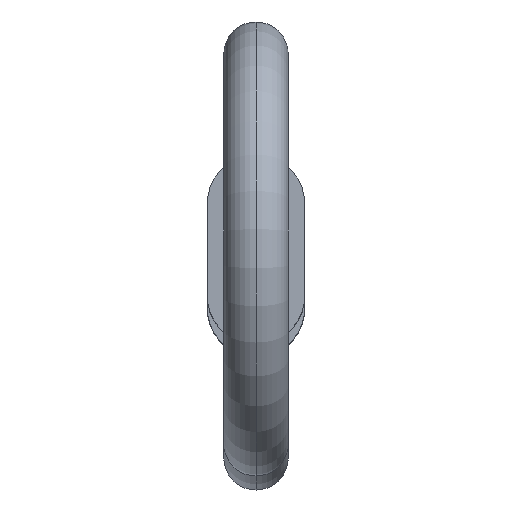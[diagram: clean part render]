
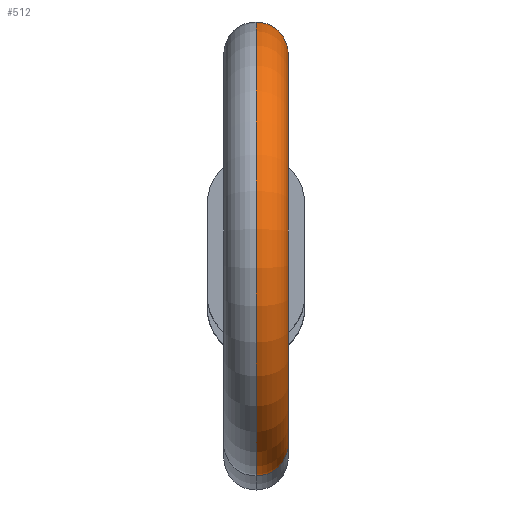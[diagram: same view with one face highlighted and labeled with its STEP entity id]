
A CAD part, top view. The second image highlights one B-rep face of the part: STEP entity #512.
In plain terms, the highlighted toroidal (fillet/blend) face has major radius 4.8 mm and minor radius 0.795 mm.
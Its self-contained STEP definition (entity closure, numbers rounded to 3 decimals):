
#4 = CIRCLE ( 'NONE', #236, 4.005 ) ;
#23 = AXIS2_PLACEMENT_3D ( 'NONE', #104, #178, #618 ) ;
#49 = AXIS2_PLACEMENT_3D ( 'NONE', #117, #264, #331 ) ;
#54 = DIRECTION ( 'NONE',  ( 1., 0., 0. ) ) ;
#63 = CARTESIAN_POINT ( 'NONE',  ( 0., -5.303, 97.87 ) ) ;
#104 = CARTESIAN_POINT ( 'NONE',  ( 0., -1.133, 101.6 ) ) ;
#113 = CARTESIAN_POINT ( 'NONE',  ( 0., 3.037, 97.87 ) ) ;
#117 = CARTESIAN_POINT ( 'NONE',  ( 0., -4.711, 98.4 ) ) ;
#146 = DIRECTION ( 'NONE',  ( 1., 0., 0. ) ) ;
#178 = DIRECTION ( 'NONE',  ( 1., 0., 0. ) ) ;
#200 = AXIS2_PLACEMENT_3D ( 'NONE', #729, #54, #857 ) ;
#206 = EDGE_LOOP ( 'NONE', ( #317, #930, #941, #589 ) ) ;
#207 = DIRECTION ( 'NONE',  ( 0., 0., -1. ) ) ;
#236 = AXIS2_PLACEMENT_3D ( 'NONE', #794, #146, #207 ) ;
#264 = DIRECTION ( 'NONE',  ( 0., 0.667, -0.745 ) ) ;
#317 = ORIENTED_EDGE ( 'NONE', *, *, #583, .T. ) ;
#331 = DIRECTION ( 'NONE',  ( 1., 0., 0. ) ) ;
#351 = CARTESIAN_POINT ( 'NONE',  ( 0., 2.445, 98.4 ) ) ;
#371 = VERTEX_POINT ( 'NONE', #537 ) ;
#432 = TOROIDAL_SURFACE ( 'NONE', #23, 4.8, 0.795 ) ;
#507 = DIRECTION ( 'NONE',  ( 1., 0., 0. ) ) ;
#512 = ADVANCED_FACE ( 'NONE', ( #636 ), #432, .T. ) ;
#523 = VERTEX_POINT ( 'NONE', #766 ) ;
#537 = CARTESIAN_POINT ( 'NONE',  ( 0., 1.852, 98.93 ) ) ;
#545 = CIRCLE ( 'NONE', #659, 0.795 ) ;
#578 = EDGE_CURVE ( 'NONE', #805, #891, #899, .T. ) ;
#583 = EDGE_CURVE ( 'NONE', #371, #805, #545, .T. ) ;
#589 = ORIENTED_EDGE ( 'NONE', *, *, #866, .F. ) ;
#618 = DIRECTION ( 'NONE',  ( 0., 0., -1. ) ) ;
#636 = FACE_OUTER_BOUND ( 'NONE', #206, .T. ) ;
#659 = AXIS2_PLACEMENT_3D ( 'NONE', #351, #944, #507 ) ;
#729 = CARTESIAN_POINT ( 'NONE',  ( 0., -1.133, 101.6 ) ) ;
#743 = CIRCLE ( 'NONE', #49, 0.795 ) ;
#755 = EDGE_CURVE ( 'NONE', #523, #891, #743, .T. ) ;
#766 = CARTESIAN_POINT ( 'NONE',  ( 0., -4.118, 98.93 ) ) ;
#794 = CARTESIAN_POINT ( 'NONE',  ( 0., -1.133, 101.6 ) ) ;
#805 = VERTEX_POINT ( 'NONE', #113 ) ;
#857 = DIRECTION ( 'NONE',  ( 0., 0., -1. ) ) ;
#866 = EDGE_CURVE ( 'NONE', #371, #523, #4, .T. ) ;
#891 = VERTEX_POINT ( 'NONE', #63 ) ;
#899 = CIRCLE ( 'NONE', #200, 5.595 ) ;
#930 = ORIENTED_EDGE ( 'NONE', *, *, #578, .T. ) ;
#941 = ORIENTED_EDGE ( 'NONE', *, *, #755, .F. ) ;
#944 = DIRECTION ( 'NONE',  ( 0., 0.667, 0.745 ) ) ;
